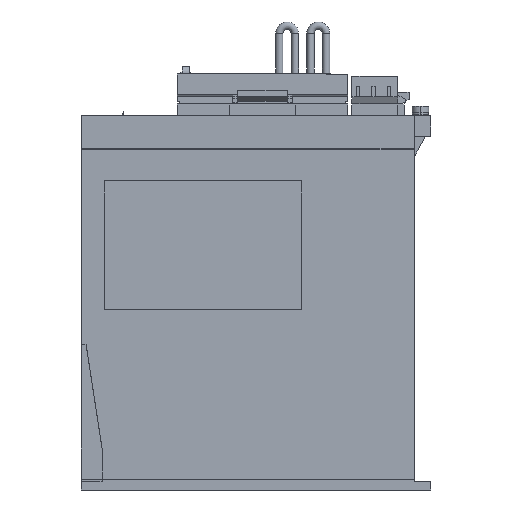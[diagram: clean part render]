
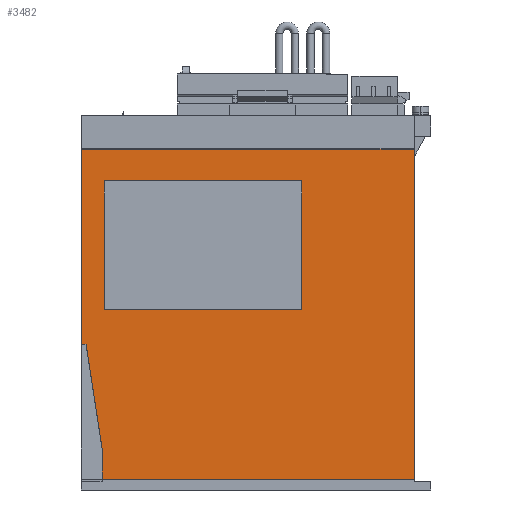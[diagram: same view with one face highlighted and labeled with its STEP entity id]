
A CAD part, left-side view. The second image highlights one B-rep face of the part: STEP entity #3482.
In plain terms, the highlighted planar face has unit normal (-1, 0, 0).
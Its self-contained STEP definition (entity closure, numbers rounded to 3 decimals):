
#3324 = VERTEX_POINT ( 'NONE', #23443 ) ;
#3377 = EDGE_CURVE ( 'NONE', #3378, #3404, #23556, .T. ) ;
#3378 = VERTEX_POINT ( 'NONE', #23552 ) ;
#3404 = VERTEX_POINT ( 'NONE', #23570 ) ;
#3467 = ORIENTED_EDGE ( 'NONE', *, *, #3468, .T. ) ;
#3468 = EDGE_CURVE ( 'NONE', #3404, #3469, #23729, .T. ) ;
#3469 = VERTEX_POINT ( 'NONE', #23725 ) ;
#3470 = ORIENTED_EDGE ( 'NONE', *, *, #3471, .F. ) ;
#3471 = EDGE_CURVE ( 'NONE', #3472, #3469, #23724, .T. ) ;
#3472 = VERTEX_POINT ( 'NONE', #23720 ) ;
#3473 = ORIENTED_EDGE ( 'NONE', *, *, #3474, .T. ) ;
#3474 = EDGE_CURVE ( 'NONE', #3472, #3475, #23719, .T. ) ;
#3475 = VERTEX_POINT ( 'NONE', #23715 ) ;
#3476 = ORIENTED_EDGE ( 'NONE', *, *, #3538, .T. ) ;
#3482 = ADVANCED_FACE ( 'NONE', ( #23705, #23704 ), #23703, .F. ) ;
#3483 = EDGE_LOOP ( 'NONE', ( #3484, #3488, #3491, #3553 ) ) ;
#3484 = ORIENTED_EDGE ( 'NONE', *, *, #3485, .F. ) ;
#3485 = EDGE_CURVE ( 'NONE', #3486, #3487, #23762, .T. ) ;
#3486 = VERTEX_POINT ( 'NONE', #23758 ) ;
#3487 = VERTEX_POINT ( 'NONE', #23757 ) ;
#3488 = ORIENTED_EDGE ( 'NONE', *, *, #3489, .F. ) ;
#3489 = EDGE_CURVE ( 'NONE', #3490, #3486, #23756, .T. ) ;
#3490 = VERTEX_POINT ( 'NONE', #23752 ) ;
#3491 = ORIENTED_EDGE ( 'NONE', *, *, #3492, .F. ) ;
#3492 = EDGE_CURVE ( 'NONE', #3324, #3490, #23751, .T. ) ;
#3538 = EDGE_CURVE ( 'NONE', #3475, #3539, #23803, .T. ) ;
#3539 = VERTEX_POINT ( 'NONE', #23799 ) ;
#3540 = ORIENTED_EDGE ( 'NONE', *, *, #3541, .F. ) ;
#3541 = EDGE_CURVE ( 'NONE', #3542, #3539, #23798, .T. ) ;
#3542 = VERTEX_POINT ( 'NONE', #23869 ) ;
#3543 = ORIENTED_EDGE ( 'NONE', *, *, #3544, .F. ) ;
#3544 = EDGE_CURVE ( 'NONE', #3378, #3542, #23868, .T. ) ;
#3553 = ORIENTED_EDGE ( 'NONE', *, *, #3554, .F. ) ;
#3554 = EDGE_CURVE ( 'NONE', #3487, #3324, #23837, .T. ) ;
#3555 = EDGE_LOOP ( 'NONE', ( #3556, #3467, #3470, #3473, #3476, #3540, #3543 ) ) ;
#3556 = ORIENTED_EDGE ( 'NONE', *, *, #3377, .T. ) ;
#23443 = CARTESIAN_POINT ( 'NONE',  ( -5., -6., 148.6 ) ) ;
#23552 = CARTESIAN_POINT ( 'NONE',  ( -5., 5., 163.8 ) ) ;
#23553 = DIRECTION ( 'NONE',  ( 0., 0., -1. ) ) ;
#23554 = VECTOR ( 'NONE', #23553, 1000. ) ;
#23555 = CARTESIAN_POINT ( 'NONE',  ( -5., 5., 352.68 ) ) ;
#23556 = LINE ( 'NONE', #23555, #23554 ) ;
#23570 = CARTESIAN_POINT ( 'NONE',  ( -5., 5., 70. ) ) ;
#23703 = PLANE ( 'NONE',  #23766 ) ;
#23704 = FACE_OUTER_BOUND ( 'NONE', #3555, .T. ) ;
#23705 = FACE_BOUND ( 'NONE', #3483, .T. ) ;
#23715 = CARTESIAN_POINT ( 'NONE',  ( -5., -5., 5.2 ) ) ;
#23716 = DIRECTION ( 'NONE',  ( 0., 0., -1. ) ) ;
#23717 = VECTOR ( 'NONE', #23716, 1000. ) ;
#23718 = CARTESIAN_POINT ( 'NONE',  ( -5., -5., 20. ) ) ;
#23719 = LINE ( 'NONE', #23718, #23717 ) ;
#23720 = CARTESIAN_POINT ( 'NONE',  ( -5., -5., 20. ) ) ;
#23721 = DIRECTION ( 'NONE',  ( 0., 0.152, 0.988 ) ) ;
#23722 = VECTOR ( 'NONE', #23721, 1000. ) ;
#23723 = CARTESIAN_POINT ( 'NONE',  ( -5., -5., 20. ) ) ;
#23724 = LINE ( 'NONE', #23723, #23722 ) ;
#23725 = CARTESIAN_POINT ( 'NONE',  ( -5., 2.692, 70. ) ) ;
#23726 = DIRECTION ( 'NONE',  ( 0., -1., 0. ) ) ;
#23727 = VECTOR ( 'NONE', #23726, 1000. ) ;
#23728 = CARTESIAN_POINT ( 'NONE',  ( -5., 5., 70. ) ) ;
#23729 = LINE ( 'NONE', #23728, #23727 ) ;
#23748 = DIRECTION ( 'NONE',  ( 0., 0., -1. ) ) ;
#23749 = VECTOR ( 'NONE', #23748, 1000. ) ;
#23750 = CARTESIAN_POINT ( 'NONE',  ( -5., -6., 86.6 ) ) ;
#23751 = LINE ( 'NONE', #23750, #23749 ) ;
#23752 = CARTESIAN_POINT ( 'NONE',  ( -5., -6., 86.6 ) ) ;
#23753 = DIRECTION ( 'NONE',  ( 0., -1., 0. ) ) ;
#23754 = VECTOR ( 'NONE', #23753, 1000. ) ;
#23755 = CARTESIAN_POINT ( 'NONE',  ( -5., -6., 86.6 ) ) ;
#23756 = LINE ( 'NONE', #23755, #23754 ) ;
#23757 = CARTESIAN_POINT ( 'NONE',  ( -5., -101., 148.6 ) ) ;
#23758 = CARTESIAN_POINT ( 'NONE',  ( -5., -101., 86.6 ) ) ;
#23759 = DIRECTION ( 'NONE',  ( 0., 0., 1. ) ) ;
#23760 = VECTOR ( 'NONE', #23759, 1000. ) ;
#23761 = CARTESIAN_POINT ( 'NONE',  ( -5., -101., 86.6 ) ) ;
#23762 = LINE ( 'NONE', #23761, #23760 ) ;
#23763 = DIRECTION ( 'NONE',  ( 0., 1., 0. ) ) ;
#23764 = DIRECTION ( 'NONE',  ( 1., 0., 0. ) ) ;
#23765 = CARTESIAN_POINT ( 'NONE',  ( -5., 5., 352.68 ) ) ;
#23766 = AXIS2_PLACEMENT_3D ( 'NONE', #23765, #23764, #23763 ) ;
#23798 = LINE ( 'NONE', #23873, #23872 ) ;
#23799 = CARTESIAN_POINT ( 'NONE',  ( -5., -155., 5.2 ) ) ;
#23800 = DIRECTION ( 'NONE',  ( 0., -1., 0. ) ) ;
#23801 = VECTOR ( 'NONE', #23800, 1000. ) ;
#23802 = CARTESIAN_POINT ( 'NONE',  ( -5., -5., 5.2 ) ) ;
#23803 = LINE ( 'NONE', #23802, #23801 ) ;
#23837 = LINE ( 'NONE', #23906, #23905 ) ;
#23865 = DIRECTION ( 'NONE',  ( 0., -1., 0. ) ) ;
#23866 = VECTOR ( 'NONE', #23865, 1000. ) ;
#23867 = CARTESIAN_POINT ( 'NONE',  ( -5., 5., 163.8 ) ) ;
#23868 = LINE ( 'NONE', #23867, #23866 ) ;
#23869 = CARTESIAN_POINT ( 'NONE',  ( -5., -155., 163.8 ) ) ;
#23871 = DIRECTION ( 'NONE',  ( 0., 0., -1. ) ) ;
#23872 = VECTOR ( 'NONE', #23871, 1000. ) ;
#23873 = CARTESIAN_POINT ( 'NONE',  ( -5., -155., 352.68 ) ) ;
#23904 = DIRECTION ( 'NONE',  ( 0., 1., 0. ) ) ;
#23905 = VECTOR ( 'NONE', #23904, 1000. ) ;
#23906 = CARTESIAN_POINT ( 'NONE',  ( -5., -6., 148.6 ) ) ;
